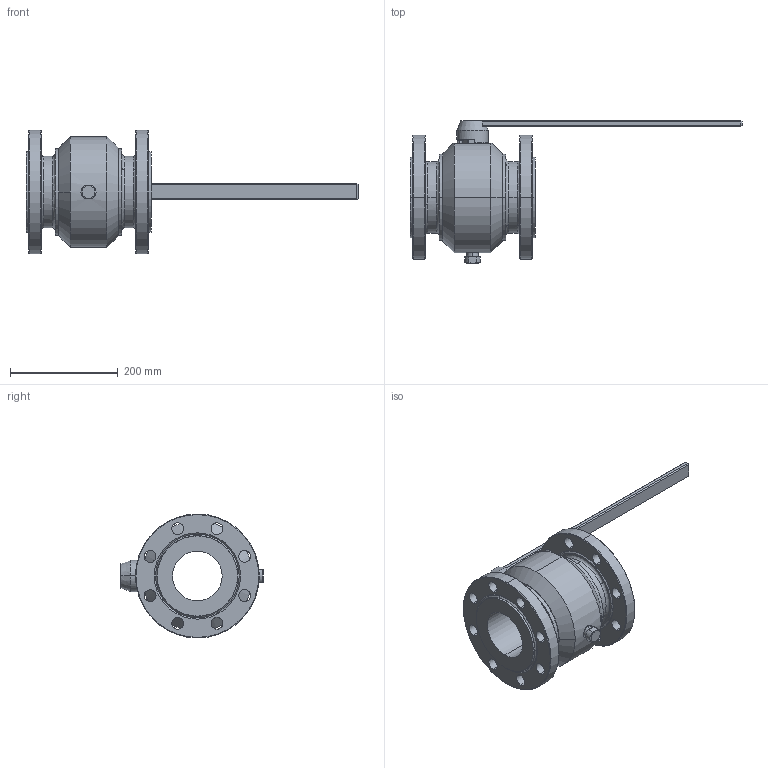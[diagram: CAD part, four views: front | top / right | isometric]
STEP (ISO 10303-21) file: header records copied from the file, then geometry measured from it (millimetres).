
FILE_DESCRIPTION(('STEP AP203'), '1');
FILE_NAME('ZARD 100.040.22.P.stp', '2013-12-09T05:55:48', ('UNSPECIFIED UNSPECIFIED'), ('UNSPECIFIED'), 'ASCON STEP Converter 1.3', 'Kompas 3D', '');
FILE_SCHEMA(('CONFIG_CONTROL_DESIGN','SUPPORT_RESOURCE_SCHEMA'));
Length unit declared in the file: millimetre
Products named in the file (1): 5
Bounding box: 616 x 264 x 230 mm (x, y, z)
Volume: 4454891.3 mm3; surface area: 562908.7 mm2
Topology: 14 solids, 14 shells, 291 faces, 681 edges, 436 vertices
Faces by surface type: cylinder 119, plane 99, cone 65, bspline 8
Entity records: 11191 total; most frequent: CARTESIAN_POINT 4170, DIRECTION 1477, ORIENTED_EDGE 1362, EDGE_CURVE 681, AXIS2_PLACEMENT_3D 602, VERTEX_POINT 436, EDGE_LOOP 361, CIRCLE 318
